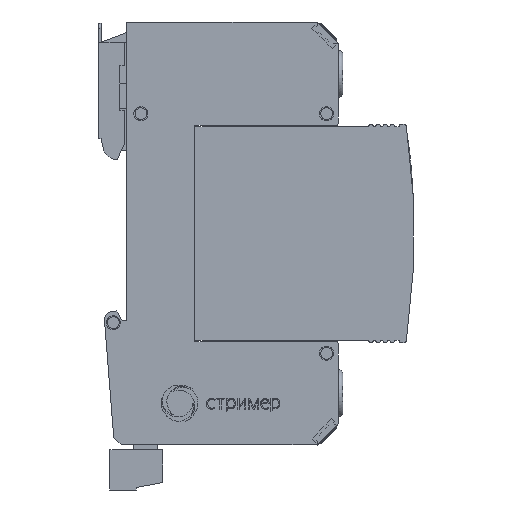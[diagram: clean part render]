
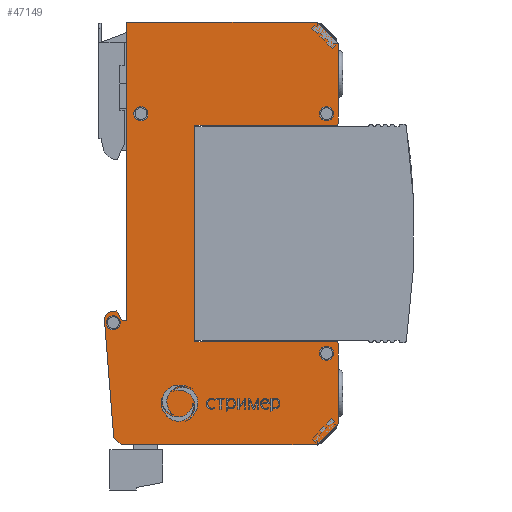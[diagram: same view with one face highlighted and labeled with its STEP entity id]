
A CAD part, front view. The second image highlights one B-rep face of the part: STEP entity #47149.
In plain terms, the highlighted planar face has unit normal (0, -1, 0).
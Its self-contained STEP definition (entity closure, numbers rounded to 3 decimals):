
#45459=CARTESIAN_POINT('',(-14.5,-18.,45.));
#45460=VERTEX_POINT('',#45459);
#45467=CARTESIAN_POINT('',(26.,-18.,45.));
#45468=VERTEX_POINT('',#45467);
#45469=CARTESIAN_POINT('',(-14.5,-18.,45.));
#45470=DIRECTION('',(1.,-0.,-0.));
#45471=VECTOR('',#45470,40.5);
#45472=LINE('',#45469,#45471);
#45473=EDGE_CURVE('',#45460,#45468,#45472,.T.);
#46097=CARTESIAN_POINT('',(-14.5,-18.,-18.5));
#46098=VERTEX_POINT('',#46097);
#46105=CARTESIAN_POINT('',(-14.5,-18.,-18.5));
#46106=DIRECTION('',(-0.,-0.,1.));
#46107=VECTOR('',#46106,63.5);
#46108=LINE('',#46105,#46107);
#46109=EDGE_CURVE('',#46098,#45460,#46108,.T.);
#46304=CARTESIAN_POINT('',(-15.5,-18.,-45.));
#46305=VERTEX_POINT('',#46304);
#46312=CARTESIAN_POINT('',(-17.29,-18.,-43.498));
#46313=VERTEX_POINT('',#46312);
#46314=CARTESIAN_POINT('',(-15.5,-18.,-45.));
#46315=DIRECTION('',(-0.766,-0.,0.643));
#46316=VECTOR('',#46315,2.337);
#46317=LINE('',#46314,#46316);
#46318=EDGE_CURVE('',#46305,#46313,#46317,.T.);
#46343=CARTESIAN_POINT('',(-19.273,-18.,-18.306));
#46344=VERTEX_POINT('',#46343);
#46345=CARTESIAN_POINT('',(-17.29,-18.,-43.498));
#46346=DIRECTION('',(-0.078,-0.,0.997));
#46347=VECTOR('',#46346,25.27);
#46348=LINE('',#46345,#46347);
#46349=EDGE_CURVE('',#46313,#46344,#46348,.T.);
#46375=CARTESIAN_POINT('',(-17.999,-18.,-16.704));
#46376=VERTEX_POINT('',#46375);
#46377=CARTESIAN_POINT('',(-17.777,-18.,-18.188));
#46378=DIRECTION('',(0.,1.,0.));
#46379=DIRECTION('',(0.,-0.,1.));
#46380=AXIS2_PLACEMENT_3D('',#46377,#46378,#46379);
#46381=CIRCLE('',#46380,1.5);
#46382=EDGE_CURVE('',#46344,#46376,#46381,.T.);
#46407=CARTESIAN_POINT('',(-16.632,-18.,-16.5));
#46408=VERTEX_POINT('',#46407);
#46409=CARTESIAN_POINT('',(-17.999,-18.,-16.704));
#46410=DIRECTION('',(0.989,-0.,0.148));
#46411=VECTOR('',#46410,1.383);
#46412=LINE('',#46409,#46411);
#46413=EDGE_CURVE('',#46376,#46408,#46412,.T.);
#46438=CARTESIAN_POINT('',(-15.5,-18.,-18.5));
#46439=VERTEX_POINT('',#46438);
#46440=CARTESIAN_POINT('',(-16.632,-18.,-16.5));
#46441=DIRECTION('',(0.492,0.,-0.87));
#46442=VECTOR('',#46441,2.298);
#46443=LINE('',#46440,#46442);
#46444=EDGE_CURVE('',#46408,#46439,#46443,.T.);
#46467=CARTESIAN_POINT('',(-15.5,-18.,-18.5));
#46468=DIRECTION('',(1.,-0.,-0.));
#46469=VECTOR('',#46468,1.);
#46470=LINE('',#46467,#46469);
#46471=EDGE_CURVE('',#46439,#46098,#46470,.T.);
#46491=CARTESIAN_POINT('',(30.5,-18.,40.5));
#46492=VERTEX_POINT('',#46491);
#46493=CARTESIAN_POINT('',(26.,-18.,45.));
#46494=DIRECTION('',(0.707,0.,-0.707));
#46495=VECTOR('',#46494,6.364);
#46496=LINE('',#46493,#46495);
#46497=EDGE_CURVE('',#45468,#46492,#46496,.T.);
#46542=CARTESIAN_POINT('',(30.5,-18.,23.5));
#46543=VERTEX_POINT('',#46542);
#46544=CARTESIAN_POINT('',(30.5,-18.,40.5));
#46545=DIRECTION('',(-0.,0.,-1.));
#46546=VECTOR('',#46545,17.);
#46547=LINE('',#46544,#46546);
#46548=EDGE_CURVE('',#46492,#46543,#46547,.T.);
#46574=CARTESIAN_POINT('',(30.,-18.,23.));
#46575=VERTEX_POINT('',#46574);
#46576=CARTESIAN_POINT('',(30.,-18.,23.5));
#46577=DIRECTION('',(0.,1.,0.));
#46578=DIRECTION('',(0.,-0.,1.));
#46579=AXIS2_PLACEMENT_3D('',#46576,#46577,#46578);
#46580=CIRCLE('',#46579,0.5);
#46581=EDGE_CURVE('',#46543,#46575,#46580,.T.);
#46606=CARTESIAN_POINT('',(0.,-18.,23.));
#46607=VERTEX_POINT('',#46606);
#46608=CARTESIAN_POINT('',(30.,-18.,23.));
#46609=DIRECTION('',(-1.,-0.,-0.));
#46610=VECTOR('',#46609,30.);
#46611=LINE('',#46608,#46610);
#46612=EDGE_CURVE('',#46575,#46607,#46611,.T.);
#46637=CARTESIAN_POINT('',(0.,-18.,-23.));
#46638=VERTEX_POINT('',#46637);
#46639=CARTESIAN_POINT('',(0.,-18.,23.));
#46640=DIRECTION('',(-0.,0.,-1.));
#46641=VECTOR('',#46640,46.);
#46642=LINE('',#46639,#46641);
#46643=EDGE_CURVE('',#46607,#46638,#46642,.T.);
#46668=CARTESIAN_POINT('',(30.,-18.,-23.));
#46669=VERTEX_POINT('',#46668);
#46670=CARTESIAN_POINT('',(0.,-18.,-23.));
#46671=DIRECTION('',(1.,-0.,-0.));
#46672=VECTOR('',#46671,30.);
#46673=LINE('',#46670,#46672);
#46674=EDGE_CURVE('',#46638,#46669,#46673,.T.);
#46700=CARTESIAN_POINT('',(30.5,-18.,-23.5));
#46701=VERTEX_POINT('',#46700);
#46702=CARTESIAN_POINT('',(30.,-18.,-23.5));
#46703=DIRECTION('',(0.,1.,0.));
#46704=DIRECTION('',(0.,-0.,1.));
#46705=AXIS2_PLACEMENT_3D('',#46702,#46703,#46704);
#46706=CIRCLE('',#46705,0.5);
#46707=EDGE_CURVE('',#46669,#46701,#46706,.T.);
#46752=CARTESIAN_POINT('',(30.5,-18.,-40.5));
#46753=VERTEX_POINT('',#46752);
#46754=CARTESIAN_POINT('',(30.5,-18.,-23.5));
#46755=DIRECTION('',(-0.,0.,-1.));
#46756=VECTOR('',#46755,17.);
#46757=LINE('',#46754,#46756);
#46758=EDGE_CURVE('',#46701,#46753,#46757,.T.);
#46783=CARTESIAN_POINT('',(26.,-18.,-45.));
#46784=VERTEX_POINT('',#46783);
#46785=CARTESIAN_POINT('',(30.5,-18.,-40.5));
#46786=DIRECTION('',(-0.707,0.,-0.707));
#46787=VECTOR('',#46786,6.364);
#46788=LINE('',#46785,#46787);
#46789=EDGE_CURVE('',#46753,#46784,#46788,.T.);
#46805=CARTESIAN_POINT('',(-17.38,-18.,-17.5));
#46806=VERTEX_POINT('',#46805);
#46807=CARTESIAN_POINT('',(-18.88,-18.,-19.));
#46808=VERTEX_POINT('',#46807);
#46809=CARTESIAN_POINT('',(-17.38,-18.,-19.));
#46810=DIRECTION('',(0.,1.,0.));
#46811=DIRECTION('',(0.,-0.,1.));
#46812=AXIS2_PLACEMENT_3D('',#46809,#46810,#46811);
#46813=CIRCLE('',#46812,1.5);
#46814=EDGE_CURVE('',#46806,#46808,#46813,.T.);
#46816=CARTESIAN_POINT('',(-17.38,-18.,-19.));
#46817=DIRECTION('',(0.,1.,0.));
#46818=DIRECTION('',(0.,-0.,1.));
#46819=AXIS2_PLACEMENT_3D('',#46816,#46817,#46818);
#46820=CIRCLE('',#46819,1.5);
#46821=EDGE_CURVE('',#46808,#46806,#46820,.T.);
#46851=CARTESIAN_POINT('',(28.,-18.,-24.));
#46852=VERTEX_POINT('',#46851);
#46853=CARTESIAN_POINT('',(26.5,-18.,-25.5));
#46854=VERTEX_POINT('',#46853);
#46855=CARTESIAN_POINT('',(28.,-18.,-25.5));
#46856=DIRECTION('',(0.,1.,0.));
#46857=DIRECTION('',(0.,-0.,1.));
#46858=AXIS2_PLACEMENT_3D('',#46855,#46856,#46857);
#46859=CIRCLE('',#46858,1.5);
#46860=EDGE_CURVE('',#46852,#46854,#46859,.T.);
#46862=CARTESIAN_POINT('',(28.,-18.,-25.5));
#46863=DIRECTION('',(0.,1.,0.));
#46864=DIRECTION('',(0.,-0.,1.));
#46865=AXIS2_PLACEMENT_3D('',#46862,#46863,#46864);
#46866=CIRCLE('',#46865,1.5);
#46867=EDGE_CURVE('',#46854,#46852,#46866,.T.);
#46897=CARTESIAN_POINT('',(-11.5,-18.,27.));
#46898=VERTEX_POINT('',#46897);
#46899=CARTESIAN_POINT('',(-13.,-18.,25.5));
#46900=VERTEX_POINT('',#46899);
#46901=CARTESIAN_POINT('',(-11.5,-18.,25.5));
#46902=DIRECTION('',(0.,1.,0.));
#46903=DIRECTION('',(0.,-0.,1.));
#46904=AXIS2_PLACEMENT_3D('',#46901,#46902,#46903);
#46905=CIRCLE('',#46904,1.5);
#46906=EDGE_CURVE('',#46898,#46900,#46905,.T.);
#46908=CARTESIAN_POINT('',(-11.5,-18.,25.5));
#46909=DIRECTION('',(0.,1.,0.));
#46910=DIRECTION('',(0.,-0.,1.));
#46911=AXIS2_PLACEMENT_3D('',#46908,#46909,#46910);
#46912=CIRCLE('',#46911,1.5);
#46913=EDGE_CURVE('',#46900,#46898,#46912,.T.);
#46943=CARTESIAN_POINT('',(28.,-18.,27.));
#46944=VERTEX_POINT('',#46943);
#46945=CARTESIAN_POINT('',(26.5,-18.,25.5));
#46946=VERTEX_POINT('',#46945);
#46947=CARTESIAN_POINT('',(28.,-18.,25.5));
#46948=DIRECTION('',(0.,1.,0.));
#46949=DIRECTION('',(0.,-0.,1.));
#46950=AXIS2_PLACEMENT_3D('',#46947,#46948,#46949);
#46951=CIRCLE('',#46950,1.5);
#46952=EDGE_CURVE('',#46944,#46946,#46951,.T.);
#46954=CARTESIAN_POINT('',(28.,-18.,25.5));
#46955=DIRECTION('',(0.,1.,0.));
#46956=DIRECTION('',(0.,-0.,1.));
#46957=AXIS2_PLACEMENT_3D('',#46954,#46955,#46956);
#46958=CIRCLE('',#46957,1.5);
#46959=EDGE_CURVE('',#46946,#46944,#46958,.T.);
#47098=CARTESIAN_POINT('',(26.,-18.,-45.));
#47099=DIRECTION('',(-1.,-0.,-0.));
#47100=VECTOR('',#47099,41.5);
#47101=LINE('',#47098,#47100);
#47102=EDGE_CURVE('',#46784,#46305,#47101,.T.);
#47108=CARTESIAN_POINT('',(0.,-18.,-0.));
#47109=DIRECTION('',(0.,1.,0.));
#47110=DIRECTION('',(0.,0.,-1.));
#47111=AXIS2_PLACEMENT_3D('',#47108,#47109,#47110);
#47112=PLANE('',#47111);
#47113=ORIENTED_EDGE('',*,*,#46959,.T.);
#47114=ORIENTED_EDGE('',*,*,#46952,.T.);
#47115=EDGE_LOOP('',(#47113,#47114));
#47116=FACE_BOUND('',#47115,.T.);
#47117=ORIENTED_EDGE('',*,*,#46913,.T.);
#47118=ORIENTED_EDGE('',*,*,#46906,.T.);
#47119=EDGE_LOOP('',(#47117,#47118));
#47120=FACE_BOUND('',#47119,.T.);
#47121=ORIENTED_EDGE('',*,*,#46867,.T.);
#47122=ORIENTED_EDGE('',*,*,#46860,.T.);
#47123=EDGE_LOOP('',(#47121,#47122));
#47124=FACE_BOUND('',#47123,.T.);
#47125=ORIENTED_EDGE('',*,*,#46821,.T.);
#47126=ORIENTED_EDGE('',*,*,#46814,.T.);
#47127=EDGE_LOOP('',(#47125,#47126));
#47128=FACE_BOUND('',#47127,.T.);
#47129=ORIENTED_EDGE('',*,*,#46318,.F.);
#47130=ORIENTED_EDGE('',*,*,#47102,.F.);
#47131=ORIENTED_EDGE('',*,*,#46789,.F.);
#47132=ORIENTED_EDGE('',*,*,#46758,.F.);
#47133=ORIENTED_EDGE('',*,*,#46707,.F.);
#47134=ORIENTED_EDGE('',*,*,#46674,.F.);
#47135=ORIENTED_EDGE('',*,*,#46643,.F.);
#47136=ORIENTED_EDGE('',*,*,#46612,.F.);
#47137=ORIENTED_EDGE('',*,*,#46581,.F.);
#47138=ORIENTED_EDGE('',*,*,#46548,.F.);
#47139=ORIENTED_EDGE('',*,*,#46497,.F.);
#47140=ORIENTED_EDGE('',*,*,#45473,.F.);
#47141=ORIENTED_EDGE('',*,*,#46109,.F.);
#47142=ORIENTED_EDGE('',*,*,#46471,.F.);
#47143=ORIENTED_EDGE('',*,*,#46444,.F.);
#47144=ORIENTED_EDGE('',*,*,#46413,.F.);
#47145=ORIENTED_EDGE('',*,*,#46382,.F.);
#47146=ORIENTED_EDGE('',*,*,#46349,.F.);
#47147=EDGE_LOOP('',(#47129,#47130,#47131,#47132,#47133,#47134,#47135,#47136,#47137,#47138,#47139,#47140,#47141,#47142,#47143,#47144,#47145,#47146));
#47148=FACE_BOUND('',#47147,.T.);
#47149=ADVANCED_FACE('',(#47116,#47120,#47124,#47128,#47148),#47112,.F.);
